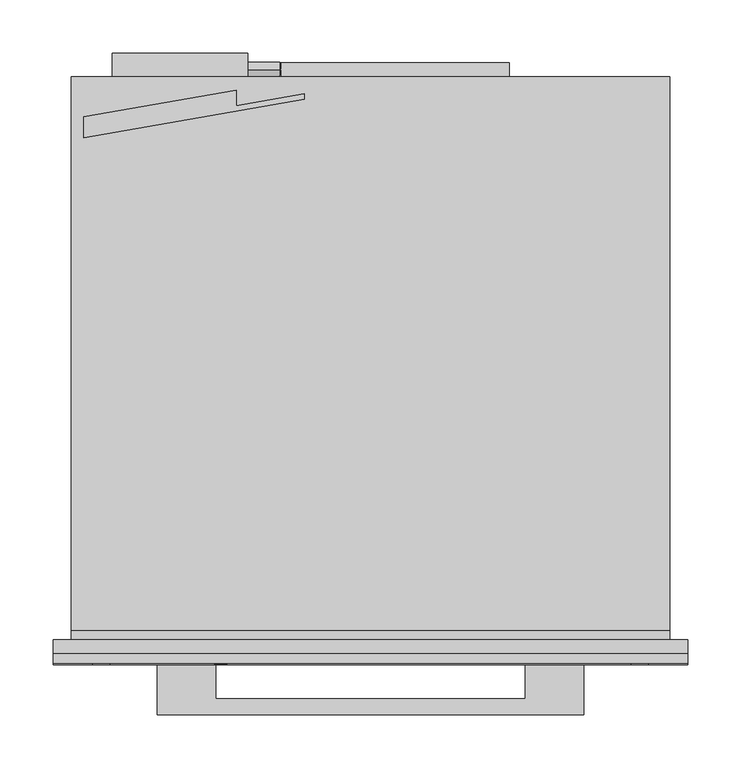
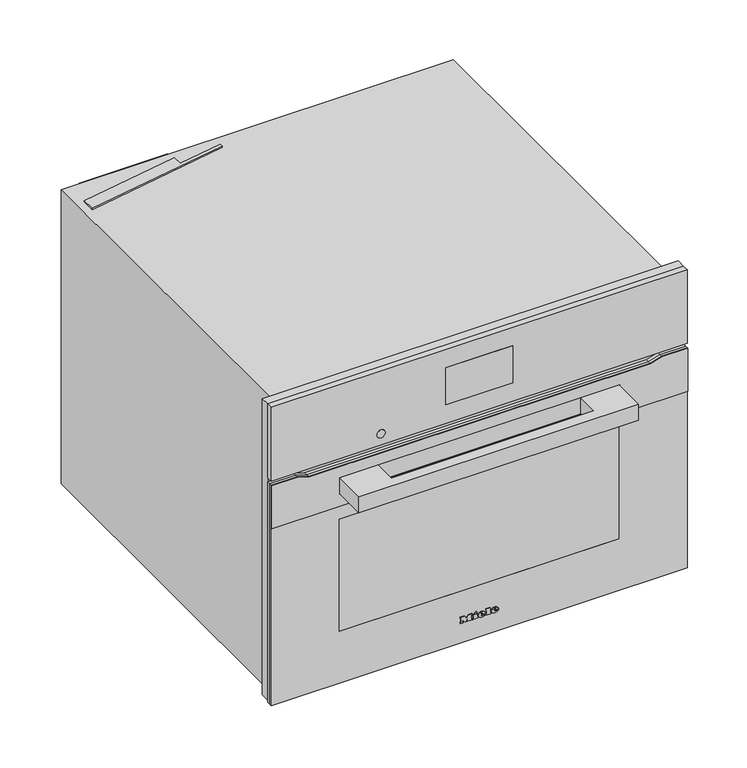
"""IFC4 building model written with IfcOpenShell, lengths in millimetres: proxy geometry, 11804600_USA_H7640BM_EDST-CLST : 22764046_USA_11804600_H7640BM_EDST-CLST."""

import ifcopenshell
import ifcopenshell.guid

model = None  # the IFC model being written
_history = None  # IfcOwnerHistory: only IFC2X3 demands one
_inside = {}  # id of a spatial element -> (the spatial element, [elements in it])
_under = {}  # id of a project, library or spatial element -> (it, [spatial elements below it])
_declared = {}  # id of a project -> (the project, [libraries it declares])
_typed = {}  # id of a type object -> (the type object, [elements of that type])
_made_of = {}  # id of a material, layer set ... -> (it, [elements and type objects made of it])


def new_model(schema):
    """Start an empty IFC model of exactly this schema.

    Asked for "IFC4X3", IfcOpenShell would pick the latest addendum, in which some entities
    have other attributes; the version numbers below select the first issue.
    IFC2X3 requires an IfcOwnerHistory on every rooted entity: one is made here for all.
    """
    global model, _history
    if schema == "IFC4X3":
        model = ifcopenshell.file(schema_version=(4, 3, 0, 0))
    else:
        model = ifcopenshell.file(schema=schema)
    _inside.clear()
    _under.clear()
    _declared.clear()
    _typed.clear()
    _made_of.clear()
    _history = None
    if model.schema == "IFC2X3":
        org = make("IfcOrganization", Name="unknown")
        user = make(
            "IfcPersonAndOrganization",
            ThePerson=make("IfcPerson", FamilyName="unknown"),
            TheOrganization=org,
        )
        app = make(
            "IfcApplication",
            ApplicationDeveloper=org,
            Version="unknown",
            ApplicationFullName="unknown",
            ApplicationIdentifier="unknown",
        )
        _history = make(
            "IfcOwnerHistory",
            OwningUser=user,
            OwningApplication=app,
            ChangeAction="ADDED",
            CreationDate=0,
        )
    return model


def make(cls, **values):
    """One entity of the class cls with the attributes given. An attribute that is None is left unset."""
    return model.create_entity(
        cls, **{name: value for name, value in values.items() if value is not None}
    )


def rooted(cls, **values):
    """An entity with a GlobalId (a new one), such as an element, a storey or a relation."""
    return make(cls, GlobalId=ifcopenshell.guid.new(), OwnerHistory=_history, **values)


def si_unit(unit_type, name, prefix=None):
    """IfcSIUnit, for example si_unit("LENGTHUNIT", "METRE", prefix="MILLI")."""
    return make("IfcSIUnit", UnitType=unit_type, Prefix=prefix, Name=name)


def assignment(units):
    """IfcUnitAssignment: the units of a project."""
    return None if units is None else make("IfcUnitAssignment", Units=units)


def point(xyz):
    """IfcCartesianPoint."""
    return None if xyz is None else make("IfcCartesianPoint", Coordinates=xyz)


def direction(xyz):
    """IfcDirection."""
    return None if xyz is None else make("IfcDirection", DirectionRatios=xyz)


def frame(location, z_axis=None, x_axis=None):
    """IfcAxis2Placement3D, a coordinate frame: its origin and axes. An axis left out is left unset."""
    return make(
        "IfcAxis2Placement3D",
        Location=point(location),
        Axis=direction(z_axis),
        RefDirection=direction(x_axis),
    )


def frame_2d(location, x_axis=None):
    """IfcAxis2Placement2D, a coordinate frame in the plane: its origin and x axis."""
    return make(
        "IfcAxis2Placement2D", Location=point(location), RefDirection=direction(x_axis)
    )


def origin():
    """The frame at (0, 0, 0) with its axes left unset."""
    return frame((0.0, 0.0, 0.0))


def place(relative_to, where):
    """IfcLocalPlacement: puts the frame where relative to a parent placement (None: the world)."""
    return make(
        "IfcLocalPlacement", PlacementRelTo=relative_to, RelativePlacement=where
    )


def context(
    kind, dimensions, precision=None, world=None, true_north=None, identifier=None
):
    """IfcGeometricRepresentationContext, for example the 3D "Model" context."""
    return make(
        "IfcGeometricRepresentationContext",
        ContextIdentifier=identifier,
        ContextType=kind,
        CoordinateSpaceDimension=dimensions,
        Precision=precision,
        WorldCoordinateSystem=world,
        TrueNorth=true_north,
    )


def project(units=None, contexts=None):
    """IfcProject with its units and contexts."""
    return rooted(
        "IfcProject",
        Name="project",
        RepresentationContexts=contexts,
        UnitsInContext=assignment(units),
    )


def spatial(cls, under=None, at=None, **own):
    """A site, building, storey or space (cls), placed at a placement, below another one or the project."""
    s = rooted(cls, ObjectPlacement=at, **own)
    if under is not None:
        _under.setdefault(under.id(), (under, []))[1].append(s)
    return s


def polyline(points):
    """IfcPolyline through the points."""
    return make("IfcPolyline", Points=[point(p) for p in points])


def circle_curve(where, radius):
    """IfcCircle in the frame where."""
    return make("IfcCircle", Position=where, Radius=radius)


def ellipse_curve(where, semi_axis1, semi_axis2):
    """IfcEllipse in the frame where."""
    return make(
        "IfcEllipse", Position=where, SemiAxis1=semi_axis1, SemiAxis2=semi_axis2
    )


def trimmed(basis, trim1, trim2, sense, master):
    """IfcTrimmedCurve: the piece of a basis curve between two trims."""
    return make(
        "IfcTrimmedCurve",
        BasisCurve=basis,
        Trim1=trim1,
        Trim2=trim2,
        SenseAgreement=sense,
        MasterRepresentation=master,
    )


def segment(curve, same_sense, transition):
    """IfcCompositeCurveSegment."""
    return make(
        "IfcCompositeCurveSegment",
        Transition=transition,
        SameSense=same_sense,
        ParentCurve=curve,
    )


def composite_curve(segments, self_intersect=None):
    """IfcCompositeCurve: segments joined end to end."""
    return make("IfcCompositeCurve", Segments=segments, SelfIntersect=self_intersect)


def outline(outer, holes=None, kind="AREA"):
    """IfcArbitraryClosedProfileDef: a profile drawn as a closed curve; with holes, ...WithVoids."""
    if holes is None:
        return make("IfcArbitraryClosedProfileDef", ProfileType=kind, OuterCurve=outer)
    return make(
        "IfcArbitraryProfileDefWithVoids",
        ProfileType=kind,
        OuterCurve=outer,
        InnerCurves=holes,
    )


def extrude(swept, where, along, depth):
    """IfcExtrudedAreaSolid: the profile swept, set in the frame where, extruded along a direction by depth."""
    return make(
        "IfcExtrudedAreaSolid",
        SweptArea=swept,
        Position=where,
        ExtrudedDirection=direction(along),
        Depth=depth,
    )


def faces_of(points, faces, orient=None, outer=None):
    """IfcFace entities. A face is a list of loops; a loop is a list of indices into points, from 0.

    orient and outer hold one flag for each loop. By default every Orientation is true, the
    first loop of a face is its IfcFaceOuterBound and the others are IfcFaceBound.
    """
    made = []
    for i, loops in enumerate(faces):
        bounds = []
        for j, loop in enumerate(loops):
            is_outer = j == 0 if outer is None else outer[i][j]
            bounds.append(
                make(
                    "IfcFaceOuterBound" if is_outer else "IfcFaceBound",
                    Bound=make("IfcPolyLoop", Polygon=[points[k] for k in loop]),
                    Orientation=True if orient is None else orient[i][j],
                )
            )
        made.append(make("IfcFace", Bounds=bounds))
    return made


def faceted_brep(points, faces, orient=None, outer=None, voids=None):
    """IfcFacetedBrep: a solid bounded by flat faces; with voids (closed shells), ...WithVoids."""
    shared = [point(p) for p in points]
    hull = make("IfcClosedShell", CfsFaces=faces_of(shared, faces, orient, outer))
    if voids is None:
        return make("IfcFacetedBrep", Outer=hull)
    return make(
        "IfcFacetedBrepWithVoids",
        Outer=hull,
        Voids=[
            make(cls, CfsFaces=faces_of(shared, fs, o, b)) for cls, fs, o, b in voids
        ],
    )


def shape(context_of_items, identifier, shape_type, items):
    """IfcShapeRepresentation: the items that make up one representation, for example the "Body"."""
    return make(
        "IfcShapeRepresentation",
        ContextOfItems=context_of_items,
        RepresentationIdentifier=identifier,
        RepresentationType=shape_type,
        Items=items,
    )


def source(mapping_origin, context_of_items, identifier, shape_type, items):
    """IfcRepresentationMap: a shape defined once, which mapped items show again and again."""
    return make(
        "IfcRepresentationMap",
        MappingOrigin=mapping_origin,
        MappedRepresentation=shape(context_of_items, identifier, shape_type, items),
    )


def transform(
    local_origin,
    x_axis=None,
    y_axis=None,
    z_axis=None,
    scale=None,
    scale2=None,
    scale3=None,
    uniform=True,
):
    """IfcCartesianTransformationOperator3D, or its non-uniform kind. x_axis, y_axis, z_axis: its Axis1, 2, 3."""
    if uniform:
        return make(
            "IfcCartesianTransformationOperator3D",
            Axis1=direction(x_axis),
            Axis2=direction(y_axis),
            LocalOrigin=point(local_origin),
            Scale=scale,
            Axis3=direction(z_axis),
        )
    return make(
        "IfcCartesianTransformationOperator3DnonUniform",
        Axis1=direction(x_axis),
        Axis2=direction(y_axis),
        LocalOrigin=point(local_origin),
        Scale=scale,
        Axis3=direction(z_axis),
        Scale2=scale2,
        Scale3=scale3,
    )


def mapped(mapping_source, mapping_target):
    """IfcMappedItem: shows the shape of a source again, moved by a transform."""
    return make(
        "IfcMappedItem", MappingSource=mapping_source, MappingTarget=mapping_target
    )


def made_of(thing, what):
    """Note that an element or type object is made of a material, layer set ...; save() writes the relation."""
    if what is not None:
        _made_of.setdefault(what.id(), (what, []))[1].append(thing)
    return thing


def element(
    cls,
    number,
    at=None,
    inside=None,
    cuts=None,
    type_object=None,
    material=None,
    context=None,
    identifier="Body",
    shape_type=None,
    held_by="IfcProductDefinitionShape",
    body=None,
    shapes=None,
    **own,
):
    """One element of the class cls, such as IfcWall. Its Tag is "e" and its number.

    at: its placement. inside: the storey or other place that contains it. cuts: it is an
    opening in that element (IfcRelVoidsElement). A single representation is given by context,
    identifier, shape_type and body (its items); several are given by shapes. held_by: the class
    of the entity that holds the representations. save() writes the other relations.
    """
    e = rooted(cls, Tag="e%d" % number, ObjectPlacement=at, **own)
    if body is not None:
        shapes = [shape(context, identifier, shape_type, body)]
    if shapes is not None:
        e.Representation = make(held_by, Representations=shapes)
    if inside is not None:
        _inside.setdefault(inside.id(), (inside, []))[1].append(e)
    if cuts is not None:
        rooted(
            "IfcRelVoidsElement", RelatingBuildingElement=cuts, RelatedOpeningElement=e
        )
    if type_object is not None:
        _typed.setdefault(type_object.id(), (type_object, []))[1].append(e)
    return made_of(e, material)


def aggregate(whole, parts):
    """IfcRelAggregates: a whole, such as a stair, and the parts it consists of."""
    return rooted("IfcRelAggregates", RelatingObject=whole, RelatedObjects=parts)


def save(model, path):
    """Write the relations noted so far, then the file.

    IfcRelAggregates (storeys below a building ...), IfcRelContainedInSpatialStructure (elements
    in a storey), IfcRelDefinesByType, IfcRelAssociatesMaterial and IfcRelDeclares: one each for
    every whole, place, type object, material and project.
    """
    for whole, parts in _under.values():
        aggregate(whole, parts)
    for where, things in _inside.values():
        rooted(
            "IfcRelContainedInSpatialStructure",
            RelatedElements=things,
            RelatingStructure=where,
        )
    for kind, things in _typed.values():
        rooted("IfcRelDefinesByType", RelatedObjects=things, RelatingType=kind)
    for what, things in _made_of.values():
        rooted("IfcRelAssociatesMaterial", RelatedObjects=things, RelatingMaterial=what)
    for by, libraries in _declared.values():
        rooted("IfcRelDeclares", RelatingContext=by, RelatedDefinitions=libraries)
    model.write(path)


def plane_surface(at):
    """IfcPlane: the flat surface through the origin of the frame at, square to its z axis."""
    return make("IfcPlane", Position=at)


def cylinder_surface(at, radius):
    """IfcCylindricalSurface: all points at the distance radius from the z axis of the frame at."""
    return make("IfcCylindricalSurface", Position=at, Radius=radius)


def revolved_surface(curve, axis_point, axis_direction):
    """IfcSurfaceOfRevolution: the curve turned about the line through axis_point along axis_direction."""
    return make(
        "IfcSurfaceOfRevolution",
        SweptCurve=make("IfcArbitraryOpenProfileDef", ProfileType="CURVE", Curve=curve),
        AxisPosition=make("IfcAxis1Placement", Location=point(axis_point), Axis=direction(axis_direction)),
    )


def extruded_surface(curve, direction_of_extrusion, depth):
    """IfcSurfaceOfLinearExtrusion: the curve pushed along a direction by depth."""
    return make(
        "IfcSurfaceOfLinearExtrusion",
        SweptCurve=make("IfcArbitraryOpenProfileDef", ProfileType="CURVE", Curve=curve),
        ExtrudedDirection=direction(direction_of_extrusion),
        Depth=depth,
    )


def advanced_brep(points, edges, surfaces, faces):
    """IfcAdvancedBrep: a solid bounded by faces that lie on surfaces and meet in shared edges.

    An edge is (start, end): straight between two places in points (the first is 0);
    or (start, end, curve); or (start, end, curve, False) where it runs against its curve.
    A face is (place in surfaces, loops), or (place, loops, False) where it looks against
    its surface's normal. A loop lists edges by number (the first is 1), with a minus sign
    where the edge is run from its end to its start. The first loop is the outer one.
    """
    corners = [point(p) for p in points]
    vertices = [make("IfcVertexPoint", VertexGeometry=c) for c in corners]
    made = []
    for start, end, *more in edges:
        made.append(
            make(
                "IfcEdgeCurve",
                EdgeStart=vertices[start],
                EdgeEnd=vertices[end],
                EdgeGeometry=more[0] if more else make("IfcPolyline", Points=[corners[start], corners[end]]),
                SameSense=more[1] if len(more) > 1 else True,
            )
        )
    hull = []
    for where, loops, *sense in faces:
        bounds = []
        for j, loop in enumerate(loops):
            ring = [make("IfcOrientedEdge", EdgeElement=made[abs(k) - 1], Orientation=k > 0) for k in loop]
            bounds.append(
                make(
                    "IfcFaceOuterBound" if j == 0 else "IfcFaceBound",
                    Bound=make("IfcEdgeLoop", EdgeList=ring),
                    Orientation=True,
                )
            )
        hull.append(make("IfcAdvancedFace", Bounds=bounds, FaceSurface=surfaces[where], SameSense=sense[0] if sense else True))
    return make("IfcAdvancedBrep", Outer=make("IfcClosedShell", CfsFaces=hull))


def specialty_equipment_f8c42bbf(model_context):
    return source(origin(), model_context, "Body", "SolidModel", [
        advanced_brep(
        [(21.28, -23.0, 36.133), (21.28, -23.0, 37.042), (27.301, -23.0, 37.042), (16.825, -23.0, 37.042), (19.3, -23.0, 34.0), (27.148, -23.0, 36.133), (24.43, -23.0, 36.133), (22.288, -23.0, 35.125), (21.28, -23.0, 38.194), (21.28, -23.0, 39.175), (22.819, -23.0, 39.175), (22.819, -23.0, 38.194), (21.28, -22.0, 36.133), (22.288, -22.0, 35.125), (24.43, -22.0, 36.133), (27.148, -22.0, 36.133), (19.3, -22.0, 34.0), (16.825, -22.0, 37.042), (27.301, -22.0, 37.042), (21.28, -22.0, 37.042), (21.28, -22.0, 38.194), (22.819, -22.0, 38.194), (22.819, -22.0, 39.175), (21.28, -22.0, 39.175)],
        [
            (0, 1),
            (1, 2),
            (2, 3, ellipse_curve(frame((22.063, -23.0, 37.042), z_axis=(0.0, -1.0, 0.0), x_axis=(-1.0, 0.0, 0.0)), 5.238, 4.329)),
            (3, 4, circle_curve(frame((20.3080491, -23.0, 37.348), z_axis=(0.0, -1.0, 0.0), x_axis=(0.0, 0.0, -1.0)), 3.4964649)),
            (4, 5, circle_curve(frame((21.9581428, -23.0, 39.724), z_axis=(0.0, -1.0, 0.0), x_axis=(0.0, 0.0, -1.0)), 6.3110933)),
            (5, 6),
            (6, 7, circle_curve(frame((22.7279412, -23.0, 36.97), z_axis=(0.0, 1.0, 0.0), x_axis=(0.0, 0.0, -1.0)), 1.896727)),
            (7, 0, circle_curve(frame((22.288, -23.0, 36.133), z_axis=(0.0, 1.0, 0.0), x_axis=(0.0, 0.0, -1.0)), 1.008)),
            (8, 9),
            (9, 10, circle_curve(frame((22.0495, -23.0, 39.175), z_axis=(0.0, 1.0, 0.0), x_axis=(0.0, 0.0, -1.0)), 0.7695)),
            (10, 11),
            (11, 8),
            (12, 13, circle_curve(frame((22.288, -22.0, 36.133), z_axis=(0.0, -1.0, 0.0), x_axis=(0.0, 0.0, -1.0)), 1.008)),
            (13, 14, circle_curve(frame((22.7279412, -22.0, 36.97), z_axis=(0.0, -1.0, 0.0), x_axis=(0.0, 0.0, -1.0)), 1.896727)),
            (14, 15),
            (15, 16, circle_curve(frame((21.9581428, -22.0, 39.724), z_axis=(0.0, 1.0, 0.0), x_axis=(0.0, 0.0, -1.0)), 6.3110933)),
            (16, 17, circle_curve(frame((20.3080491, -22.0, 37.348), z_axis=(0.0, 1.0, 0.0), x_axis=(0.0, 0.0, -1.0)), 3.4964649)),
            (17, 18, ellipse_curve(frame((22.063, -22.0, 37.042), z_axis=(0.0, 1.0, 0.0), x_axis=(-1.0, 0.0, 0.0)), 5.238, 4.329)),
            (18, 19),
            (19, 12),
            (20, 21),
            (21, 22),
            (22, 23, circle_curve(frame((22.0495, -22.0, 39.175), z_axis=(0.0, -1.0, 0.0), x_axis=(0.0, 0.0, -1.0)), 0.7695)),
            (23, 20),
            (0, 12),
            (19, 1),
            (18, 2),
            (5, 15),
            (14, 6),
            (17, 3),
            (13, 7),
            (16, 4),
            (8, 20),
            (23, 9),
            (22, 10),
            (21, 11),
        ],
        [
            plane_surface(frame((21.28, -23.0, 37.042), z_axis=(0.0, -1.0, 0.0), x_axis=(0.0, 0.0, 1.0))),
            plane_surface(frame((21.28, -22.0, 37.042), z_axis=(0.0, 1.0, 0.0), x_axis=(0.0, 0.0, -1.0))),
            plane_surface(frame((21.28, -23.0, 36.133), z_axis=(1.0, 0.0, 0.0), x_axis=(0.0, 1.0, 0.0))),
            plane_surface(frame((21.28, -23.0, 37.042), z_axis=(0.0, 0.0, -1.0), x_axis=(0.0, 1.0, 0.0))),
            plane_surface(frame((27.148, -23.0, 36.133), z_axis=(0.0, 0.0, 1.0), x_axis=(0.0, 1.0, 0.0))),
            extruded_surface(trimmed(ellipse_curve(frame((22.063, -21.0, 37.042), z_axis=(0.0, -1.0, 0.0), x_axis=(-1.0, 0.0, 0.0)), 5.238, 4.329), [point((27.301, -21.0, 37.042))], [point((16.825, -21.0, 37.042))], True, "CARTESIAN"), (0.0, -1.0, 0.0), 1.0),
            revolved_surface(polyline([(22.7279412, -22.0, 35.073273), (22.7279412, -23.0, 35.073273)]), (22.7279412, -22.0, 36.97), (0.0, 1.0, 0.0)),
            revolved_surface(polyline([(22.288, -22.0, 35.125), (22.288, -23.0, 35.125)]), (22.288, -22.0, 36.133), (0.0, 1.0, 0.0)),
            cylinder_surface(frame((20.3080491, -22.0, 37.348), z_axis=(0.0, -1.0, 0.0), x_axis=(0.0, 0.0, -1.0)), 3.4964649),
            cylinder_surface(frame((21.9581428, -22.0, 39.724), z_axis=(0.0, -1.0, 0.0), x_axis=(0.0, 0.0, -1.0)), 6.3110933),
            plane_surface(frame((21.28, -23.0, 38.194), z_axis=(1.0, 0.0, 0.0), x_axis=(0.0, 1.0, 0.0))),
            revolved_surface(polyline([(22.0495, -22.0, 38.405499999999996), (22.0495, -23.0, 38.405499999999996)]), (22.0495, -22.0, 39.175), (0.0, 1.0, 0.0)),
            plane_surface(frame((22.819, -23.0, 39.175), z_axis=(-1.0, 0.0, 0.0), x_axis=(0.0, 1.0, 0.0))),
            plane_surface(frame((22.819, -23.0, 38.194), z_axis=(0.0, 0.0, 1.0), x_axis=(0.0, 1.0, 0.0))),
        ],
        [
            (0, [[1, 2, 3, 4, 5, 6, 7, 8], [9, 10, 11, 12]]),
            (1, [[13, 14, 15, 16, 17, 18, 19, 20], [21, 22, 23, 24]]),
            (2, [[-1, 25, -20, 26]]),
            (3, [[-2, -26, -19, 27]]),
            (4, [[-6, 28, -15, 29]]),
            (5, [[-3, -27, -18, 30]]),
            (6, [[-7, -29, -14, 31]]),
            (7, [[-8, -31, -13, -25]]),
            (8, [[-4, -30, -17, 32]]),
            (9, [[-5, -32, -16, -28]]),
            (10, [[-9, 33, -24, 34]]),
            (11, [[-10, -34, -23, 35]]),
            (12, [[-11, -35, -22, 36]]),
            (13, [[-12, -36, -21, -33]]),
        ],
    ),
        advanced_brep(
        [(2.497, -23.0, 36.133), (2.497, -23.0, 37.042), (8.518, -23.0, 37.042), (-1.958, -23.0, 37.042), (0.517, -23.0, 34.0), (8.365, -23.0, 36.133), (5.647, -23.0, 36.133), (3.505, -23.0, 35.125), (2.497, -23.0, 38.194), (2.497, -23.0, 39.175), (4.036, -23.0, 39.175), (4.036, -23.0, 38.194), (2.497, -22.0, 36.133), (3.505, -22.0, 35.125), (5.647, -22.0, 36.133), (8.365, -22.0, 36.133), (0.517, -22.0, 34.0), (-1.958, -22.0, 37.042), (8.518, -22.0, 37.042), (2.497, -22.0, 37.042), (2.497, -22.0, 38.194), (4.036, -22.0, 38.194), (4.036, -22.0, 39.175), (2.497, -22.0, 39.175)],
        [
            (0, 1),
            (1, 2),
            (2, 3, ellipse_curve(frame((3.28, -23.0, 37.042), z_axis=(0.0, -1.0, 0.0), x_axis=(-1.0, 0.0, 0.0)), 5.238, 4.329)),
            (3, 4, circle_curve(frame((1.5250491, -23.0, 37.348), z_axis=(0.0, -1.0, 0.0), x_axis=(0.0, 0.0, -1.0)), 3.4964649)),
            (4, 5, circle_curve(frame((3.1751428, -23.0, 39.724), z_axis=(0.0, -1.0, 0.0), x_axis=(0.0, 0.0, -1.0)), 6.3110933)),
            (5, 6),
            (6, 7, circle_curve(frame((3.9449412, -23.0, 36.97), z_axis=(0.0, 1.0, 0.0), x_axis=(0.0, 0.0, -1.0)), 1.896727)),
            (7, 0, circle_curve(frame((3.505, -23.0, 36.133), z_axis=(0.0, 1.0, 0.0), x_axis=(0.0, 0.0, -1.0)), 1.008)),
            (8, 9),
            (9, 10, circle_curve(frame((3.2665, -23.0, 39.175), z_axis=(0.0, 1.0, 0.0), x_axis=(0.0, 0.0, -1.0)), 0.7695)),
            (10, 11),
            (11, 8),
            (12, 13, circle_curve(frame((3.505, -22.0, 36.133), z_axis=(0.0, -1.0, 0.0), x_axis=(0.0, 0.0, -1.0)), 1.008)),
            (13, 14, circle_curve(frame((3.9449412, -22.0, 36.97), z_axis=(0.0, -1.0, 0.0), x_axis=(0.0, 0.0, -1.0)), 1.896727)),
            (14, 15),
            (15, 16, circle_curve(frame((3.1751428, -22.0, 39.724), z_axis=(0.0, 1.0, 0.0), x_axis=(0.0, 0.0, -1.0)), 6.3110933)),
            (16, 17, circle_curve(frame((1.5250491, -22.0, 37.348), z_axis=(0.0, 1.0, 0.0), x_axis=(0.0, 0.0, -1.0)), 3.4964649)),
            (17, 18, ellipse_curve(frame((3.28, -22.0, 37.042), z_axis=(0.0, 1.0, 0.0), x_axis=(-1.0, 0.0, 0.0)), 5.238, 4.329)),
            (18, 19),
            (19, 12),
            (20, 21),
            (21, 22),
            (22, 23, circle_curve(frame((3.2665, -22.0, 39.175), z_axis=(0.0, -1.0, 0.0), x_axis=(0.0, 0.0, -1.0)), 0.7695)),
            (23, 20),
            (0, 12),
            (19, 1),
            (18, 2),
            (5, 15),
            (14, 6),
            (17, 3),
            (13, 7),
            (16, 4),
            (8, 20),
            (23, 9),
            (22, 10),
            (21, 11),
        ],
        [
            plane_surface(frame((2.497, -23.0, 37.042), z_axis=(0.0, -1.0, 0.0), x_axis=(0.0, 0.0, 1.0))),
            plane_surface(frame((2.497, -22.0, 37.042), z_axis=(0.0, 1.0, 0.0), x_axis=(0.0, 0.0, -1.0))),
            plane_surface(frame((2.497, -23.0, 36.133), z_axis=(1.0, 0.0, 0.0), x_axis=(0.0, 1.0, 0.0))),
            plane_surface(frame((2.497, -23.0, 37.042), z_axis=(0.0, 0.0, -1.0), x_axis=(0.0, 1.0, 0.0))),
            plane_surface(frame((8.365, -23.0, 36.133), z_axis=(0.0, 0.0, 1.0), x_axis=(0.0, 1.0, 0.0))),
            extruded_surface(trimmed(ellipse_curve(frame((3.28, -21.0, 37.042), z_axis=(0.0, -1.0, 0.0), x_axis=(-1.0, 0.0, 0.0)), 5.238, 4.329), [point((8.518, -21.0, 37.042))], [point((-1.958, -21.0, 37.042))], True, "CARTESIAN"), (0.0, -1.0, 0.0), 1.0),
            revolved_surface(polyline([(3.9449412, -22.0, 35.073273), (3.9449412, -23.0, 35.073273)]), (3.9449412, -22.0, 36.97), (0.0, 1.0, 0.0)),
            revolved_surface(polyline([(3.505, -22.0, 35.125), (3.505, -23.0, 35.125)]), (3.505, -22.0, 36.133), (0.0, 1.0, 0.0)),
            cylinder_surface(frame((1.5250491, -22.0, 37.348), z_axis=(0.0, -1.0, 0.0), x_axis=(0.0, 0.0, -1.0)), 3.4964649),
            cylinder_surface(frame((3.1751428, -22.0, 39.724), z_axis=(0.0, -1.0, 0.0), x_axis=(0.0, 0.0, -1.0)), 6.3110933),
            plane_surface(frame((2.497, -23.0, 38.194), z_axis=(1.0, 0.0, 0.0), x_axis=(0.0, 1.0, 0.0))),
            revolved_surface(polyline([(3.2665, -22.0, 38.405499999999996), (3.2665, -23.0, 38.405499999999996)]), (3.2665, -22.0, 39.175), (0.0, 1.0, 0.0)),
            plane_surface(frame((4.036, -23.0, 39.175), z_axis=(-1.0, 0.0, 0.0), x_axis=(0.0, 1.0, 0.0))),
            plane_surface(frame((4.036, -23.0, 38.194), z_axis=(0.0, 0.0, 1.0), x_axis=(0.0, 1.0, 0.0))),
        ],
        [
            (0, [[1, 2, 3, 4, 5, 6, 7, 8], [9, 10, 11, 12]]),
            (1, [[13, 14, 15, 16, 17, 18, 19, 20], [21, 22, 23, 24]]),
            (2, [[-1, 25, -20, 26]]),
            (3, [[-2, -26, -19, 27]]),
            (4, [[-6, 28, -15, 29]]),
            (5, [[-3, -27, -18, 30]]),
            (6, [[-7, -29, -14, 31]]),
            (7, [[-8, -31, -13, -25]]),
            (8, [[-4, -30, -17, 32]]),
            (9, [[-5, -32, -16, -28]]),
            (10, [[-9, 33, -24, 34]]),
            (11, [[-10, -34, -23, 35]]),
            (12, [[-11, -35, -22, 36]]),
            (13, [[-12, -36, -21, -33]]),
        ],
    ),
        extrude(outline(polyline([(42.469, -7.34), (41.011, -6.656), (42.433, -3.605), (43.891, -4.28), (42.469, -7.34)])), frame((0.0, -23.0, 0.0), z_axis=(0.0, 1.0, 0.0), x_axis=(0.0, 0.0, 1.0)), (0.0, 0.0, 1.0), 1.0),
        extrude(outline(polyline([(40.813, -9.563), (39.202, -9.563), (39.202, -8.492), (35.512, -8.492), (35.512, -9.563), (34.0, -9.563), (34.0, -2.462), (35.512, -2.462), (35.512, -3.506), (40.813, -3.506), (40.813, -9.563)])), frame((0.0, -23.0, 0.0), z_axis=(0.0, 1.0, 0.0), x_axis=(0.0, 0.0, 1.0)), (0.0, 0.0, 1.0), 1.0),
        extrude(outline(polyline([(41.533, 9.022), (41.533, 10.102), (35.512, 10.102), (35.512, 9.022), (34.0, 9.022), (34.0, 16.321), (35.512, 16.321), (35.512, 15.214), (43.0, 15.214), (43.0, 9.022), (41.533, 9.022)])), frame((0.0, -23.0, 0.0), z_axis=(0.0, 1.0, 0.0), x_axis=(0.0, 0.0, 1.0)), (0.0, 0.0, 1.0), 1.0),
        extrude(outline(polyline([(41.533, -27.5), (41.533, -26.411), (35.512, -26.411), (35.512, -27.5), (34.0, -27.5), (34.0, -23.54), (35.512, -23.54), (35.512, -24.62), (39.3341247, -24.62), (34.0, -20.597), (39.4402223, -16.556), (35.512, -16.556), (35.512, -17.663), (34.0, -17.663), (34.0, -10.481), (35.512, -10.481), (35.512, -11.624), (41.533, -11.624), (41.533, -10.481), (43.0, -10.481), (43.0, -15.962), (39.625, -18.59), (43.0, -21.227), (43.0, -27.5), (41.533, -27.5)])), frame((0.0, -23.0, 0.0), z_axis=(0.0, 1.0, 0.0), x_axis=(0.0, 0.0, 1.0)), (0.0, 0.0, 1.0), 1.0),
        extrude(outline(polyline([(-200.0, -70.3), (-200.0, -22.0), (-145.0, -22.0), (-145.0, -55.3), (145.0, -55.3), (145.0, -22.0), (200.0, -22.0), (200.0, -70.3), (-200.0, -70.3)])), frame((0.0, 0.0, 291.0), z_axis=(0.0, 0.0, 1.0), x_axis=(1.0, 0.0, 0.0)), (0.0, 0.0, 1.0), 24.0),
        extrude(outline(polyline([(337.0, -297.5), (4.0, -297.5), (4.0, 297.5), (337.0, 297.5), (337.0, 260.3542631), (332.0, 244.0), (332.0, -244.0), (337.0, -260.3542631), (337.0, -297.5)]), holes=[polyline([(252.0, 200.0), (82.0, 200.0), (82.0, -200.0), (252.0, -200.0), (252.0, 200.0)])]), frame((0.0, -22.0, 0.0), z_axis=(0.0, 1.0, 0.0), x_axis=(0.0, 0.0, 1.0)), (0.0, 0.0, 1.0), 4.0),
        extrude(outline(polyline([(337.0, -297.5), (272.0, -297.5), (272.0, 297.5), (337.0, 297.5), (337.0, 260.3542631), (332.0, 244.0), (332.0, -244.0), (337.0, -260.3542631), (337.0, -297.5)]), holes=[polyline([(315.5, -200.5), (315.5, 200.5), (290.5, 200.5), (290.5, -200.5), (315.5, -200.5)])]), frame((0.0, -23.3, 0.0), z_axis=(0.0, 1.0, 0.0), x_axis=(0.0, 0.0, 1.0)), (0.0, 0.0, 1.0), 1.3),
        extrude(outline(polyline([(337.0, -297.5), (4.0, -297.5), (4.0, 297.5), (337.0, 297.5), (337.0, 260.3542631), (332.0, 244.0), (332.0, -244.0), (337.0, -260.3542631), (337.0, -297.5)])), frame((0.0, -18.0, 0.0), z_axis=(0.0, 1.0, 0.0), x_axis=(0.0, 0.0, 1.0)), (0.0, 0.0, 1.0), 5.0),
        extrude(outline(polyline([(-200.0, -18.0), (200.0, -18.0), (200.0, -22.0), (-200.0, -22.0), (-200.0, -18.0)])), frame((0.0, 0.0, 82.0), z_axis=(0.0, 0.0, 1.0), x_axis=(1.0, 0.0, 0.0)), (0.0, 0.0, 1.0), 170.0),
        extrude(outline(polyline([(-48.0, -21.0), (48.0, -21.0), (48.0, -22.0), (-48.0, -22.0), (-48.0, -21.0)])), frame((0.0, 0.0, 371.5), z_axis=(0.0, 0.0, 1.0), x_axis=(1.0, 0.0, 0.0)), (0.0, 0.0, 1.0), 56.0),
        faceted_brep([(297.5, -22.0, 455.0), (-297.5, -22.0, 455.0), (-297.5, -22.0, 343.5), (297.5, -22.0, 343.5), (48.0, -22.0, 427.5), (48.0, -22.0, 371.5), (-48.0, -22.0, 371.5), (-48.0, -22.0, 427.5), (297.5, -13.0, 455.0), (297.5, -13.0, 343.5), (-297.5, -13.0, 343.5), (-297.5, -13.0, 455.0), (48.0, -21.0, 427.5), (-48.0, -21.0, 427.5), (-48.0, -21.0, 371.5), (48.0, -21.0, 371.5)], [[[0, 1, 2, 3], [4, 5, 6, 7]], [[8, 9, 10, 11]], [[1, 0, 8, 11]], [[2, 1, 11, 10]], [[3, 2, 10, 9]], [[0, 3, 9, 8]], [[12, 13, 14, 15]], [[12, 15, 5, 4]], [[15, 14, 6, 5]], [[14, 13, 7, 6]], [[13, 12, 4, 7]]]),
        extrude(outline(composite_curve([segment(trimmed(circle_curve(frame_2d((360.5, -140.5745637)), 6.0), [point((360.5, -146.5745637))], [point((360.5, -134.5745637))], False, "CARTESIAN"), True, "CONTINUOUS"), segment(trimmed(circle_curve(frame_2d((360.5, -140.5745637)), 6.0), [point((360.5, -134.5745637))], [point((360.5, -146.5745637))], False, "CARTESIAN"), True, "CONTINUOUS")], self_intersect=False)), frame((0.0, -22.5, 0.0), z_axis=(0.0, 1.0, 0.0), x_axis=(0.0, 0.0, 1.0)), (0.0, 0.0, 1.0), 1.0),
        extrude(outline(polyline([(-269.0, 490.2851942), (-126.0, 515.1547594), (-126.0, 500.9446163), (-62.0, 512.0750511), (-62.0, 507.0), (-269.0, 471.0), (-269.0, 490.2851942)])), frame((0.0, 0.0, 445.0), z_axis=(0.0, 0.0, 1.0), x_axis=(1.0, 0.0, 0.0)), (0.0, 0.0, 1.0), 2.0),
        extrude(outline(polyline([(528.134837, 358.3256163), (533.9911721, 358.3256163), (533.9911721, 357.3256163), (529.134837, 357.3256163), (529.134837, 353.8256163), (532.0849866, 353.8256163), (532.0849866, 352.8256163), (529.134837, 352.8256163), (529.134837, 349.3256163), (533.9911721, 349.3256163), (533.9911721, 348.3256163), (528.134837, 348.3256163), (528.134837, 358.3256163)])), frame((-85.0, 0.0, 0.0), z_axis=(1.0, 0.0, 0.0), x_axis=(0.0, 1.0, 0.0)), (0.0, 0.0, 1.0), 1.0),
        extrude(outline(polyline([(535.4911721, 348.3256163), (535.4911721, 358.3256163), (536.5959622, 358.3256163), (536.5959622, 349.3256163), (540.4911721, 349.3256163), (540.4911721, 348.3256163), (535.4911721, 348.3256163)])), frame((-85.0, 0.0, 0.0), z_axis=(1.0, 0.0, 0.0), x_axis=(0.0, 1.0, 0.0)), (0.0, 0.0, 1.0), 1.0),
        extrude(outline(composite_curve([segment(trimmed(circle_curve(frame_2d((534.0, 353.0)), 7.5), [point((534.0, 345.5))], [point((534.0, 360.5))], False, "CARTESIAN"), True, "CONTINUOUS"), segment(trimmed(circle_curve(frame_2d((534.0, 353.0)), 7.5), [point((534.0, 360.5))], [point((534.0, 345.5))], False, "CARTESIAN"), True, "CONTINUOUS")], self_intersect=False)), frame((-115.0, 0.0, 0.0), z_axis=(1.0, 0.0, 0.0), x_axis=(0.0, 1.0, 0.0)), (0.0, 0.0, 1.0), 30.0),
        extrude(outline(polyline([(-115.0, 528.0), (-242.0, 528.0), (-242.0, 550.0), (-115.0, 550.0), (-115.0, 528.0)])), frame((0.0, 0.0, 325.0), z_axis=(0.0, 0.0, 1.0), x_axis=(1.0, 0.0, 0.0)), (0.0, 0.0, 1.0), 103.0),
        faceted_brep([(272.5, 17.0, 344.0), (-272.5, 17.0, 344.0), (-272.5, 17.0, 7.0), (272.5, 17.0, 7.0), (-230.0, 17.0, 270.0), (230.0, 17.0, 270.0), (230.0, 17.0, 60.0), (-230.0, 17.0, 60.0), (272.5, 0.0, 344.0), (-272.5, 0.0, 344.0), (-272.5, 0.0, 7.0), (272.5, 0.0, 7.0), (280.5, 0.0, 0.0), (280.5, 528.0, 0.0), (280.5, 528.0, 445.0), (280.5, 9.0, 445.0), (280.5, 9.0, 440.0), (280.5, 0.0, 440.0), (-280.5, 9.0, 445.0), (-280.5, 528.0, 445.0), (-280.5, 528.0, 0.0), (-280.5, 0.0, 0.0), (-280.5, 0.0, 440.0), (-280.5, 9.0, 440.0), (230.0, 412.0, 270.0), (-230.0, 412.0, 270.0), (-230.0, 412.0, 60.0), (230.0, 412.0, 60.0)], [[[0, 1, 2, 3], [4, 5, 6, 7]], [[1, 0, 8, 9]], [[2, 1, 9, 10]], [[0, 3, 11, 8]], [[12, 13, 14, 15, 16, 17]], [[18, 19, 20, 21, 22, 23]], [[13, 12, 21, 20]], [[14, 13, 20, 19]], [[15, 14, 19, 18]], [[21, 12, 17, 22], [9, 8, 11, 10]], [[24, 25, 26, 27]], [[25, 24, 5, 4]], [[26, 25, 4, 7]], [[27, 26, 7, 6]], [[24, 27, 6, 5]], [[3, 2, 10, 11]], [[16, 23, 22, 17]], [[23, 16, 15, 18]]]),
        extrude(outline(polyline([(130.0, 528.0), (-130.0, 528.0), (-130.0, 541.0), (130.0, 541.0), (130.0, 528.0)])), frame((0.0, 0.0, 36.0), z_axis=(0.0, 0.0, 1.0), x_axis=(1.0, 0.0, 0.0)), (0.0, 0.0, 1.0), 260.0),
        extrude(outline(polyline([(7.0, 297.5), (455.0, 297.5), (455.0, -297.5), (7.0, -297.5), (7.0, -272.5), (344.0, -272.5), (344.0, 272.5), (7.0, 272.5), (7.0, 297.5)])), frame((0.0, -13.0, 0.0), z_axis=(0.0, 1.0, 0.0), x_axis=(0.0, 0.0, 1.0)), (0.0, 0.0, 1.0), 13.0),
    ])


if __name__ == "__main__":
    model = new_model("IFC4")
    model_context = context("Model", 3, world=origin())
    ifc_project = project(units=[si_unit("LENGTHUNIT", "METRE", prefix="MILLI")], contexts=[model_context])
    site = spatial("IfcSite", under=ifc_project)
    building = spatial("IfcBuilding", under=site)
    placement = place(None, origin())
    specialty_equipment_shape = specialty_equipment_f8c42bbf(model_context)
    element("IfcBuildingElementProxy", 1, Name="11804600_USA_H7640BM_EDST-CLST : 22764046_USA_11804600_H7640BM_EDST-CLST", ObjectType="11804600_USA_H7640BM_EDST-CLST : 22764046_USA_11804600_H7640BM_EDST-CLST", at=placement, inside=building, context=model_context, shape_type="MappedRepresentation", body=[
        mapped(specialty_equipment_shape, transform((0.0, 0.0, 0.0), x_axis=(1.0, 0.0, 0.0), y_axis=(0.0, 1.0, 0.0), z_axis=(0.0, 0.0, 1.0))),
    ])
    save(model, "model.ifc")
